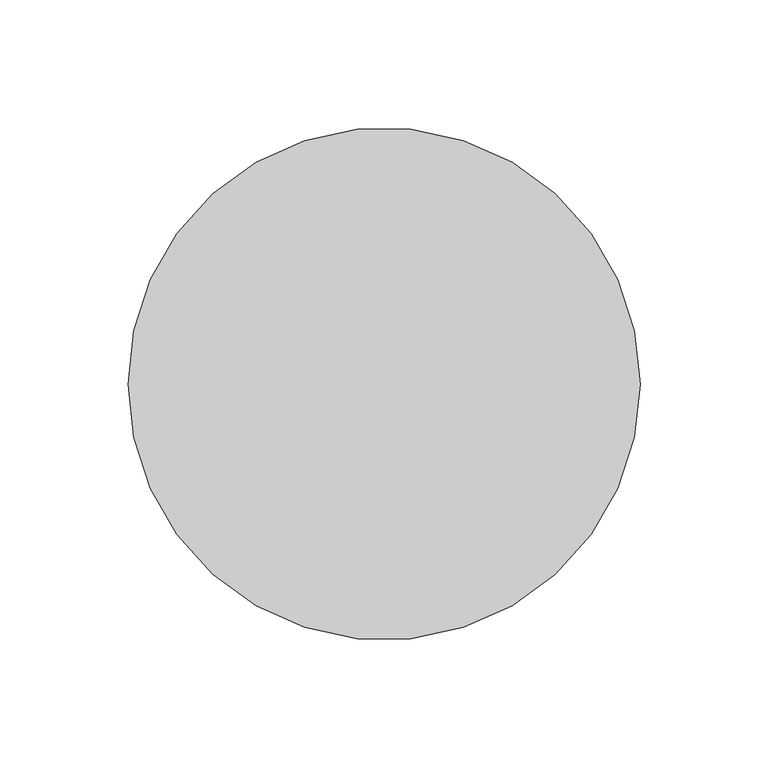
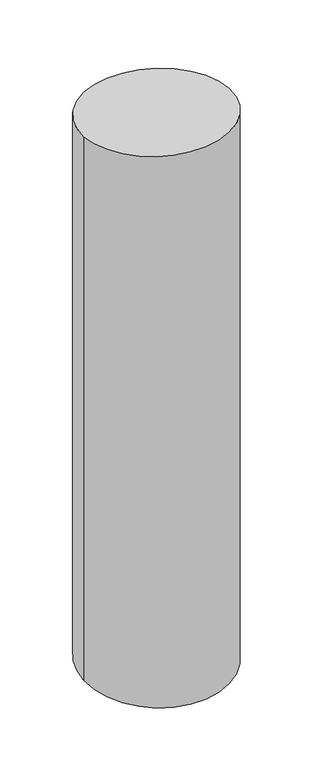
"""IFC4 building model written with IfcOpenShell, lengths in millimetres: member geometry, 矩形竖梃 : 圆瓦."""

from ifc_helpers import new_model, si_unit, frame, origin, origin_with_axes, place, context, project, spatial, ellipse_curve, source, transform, mapped, element, save
from ifc_brep_helpers import plane_surface, cylinder_surface, advanced_brep


def member_29c24a8f(model_context):
    return source(origin(), model_context, "Body", "AdvancedBrep", [
        advanced_brep(
        [(-100.0, 0.0, 0.0), (100.0, 0.0, 0.0), (100.0, 0.0, -790.1124317), (-100.0, 0.0, -790.1124317)],
        [
            (0, 1, ellipse_curve(frame((0.0, 0.0, 0.0), z_axis=(0.0, -0.06767279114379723, -0.9977075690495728), x_axis=(0.0, -0.9977075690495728, 0.06767279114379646)), 100.2297698, 100.0)),
            (1, 2),
            (2, 3, ellipse_curve(frame((0.0, 0.0, -790.1124317), z_axis=(0.0, -0.06558371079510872, 0.9978470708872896), x_axis=(0.0, 0.9978470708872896, 0.06558371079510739)), 100.2157574, 100.0)),
            (3, 0),
            (1, 0, ellipse_curve(frame((0.0, 0.0, 0.0), z_axis=(0.0, -0.06767279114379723, -0.9977075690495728), x_axis=(0.0, -0.9977075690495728, 0.06767279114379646)), 100.2297698, 100.0)),
            (3, 2, ellipse_curve(frame((0.0, 0.0, -790.1124317), z_axis=(0.0, -0.06558371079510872, 0.9978470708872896), x_axis=(0.0, 0.9978470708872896, 0.06558371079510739)), 100.2157574, 100.0)),
        ],
        [
            cylinder_surface(origin_with_axes(), 100.0),
            plane_surface(frame((-304.8, 0.0, 0.0), z_axis=(0.0, 0.06767279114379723, 0.9977075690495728), x_axis=(0.0, 0.9977075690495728, -0.06767279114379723))),
            plane_surface(frame((-304.8, 0.0, -790.1124317), z_axis=(0.0, 0.06558371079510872, -0.9978470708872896), x_axis=(0.0, 0.9978470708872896, 0.06558371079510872))),
        ],
        [
            (0, [[1, 2, 3, 4]]),
            (0, [[5, -4, 6, -2]]),
            (1, [[-1, -5]]),
            (2, [[-6, -3]]),
        ],
    ),
    ])


if __name__ == "__main__":
    model = new_model("IFC4")
    model_context = context("Model", 3, world=origin())
    ifc_project = project(units=[si_unit("LENGTHUNIT", "METRE", prefix="MILLI")], contexts=[model_context])
    site = spatial("IfcSite", under=ifc_project)
    building = spatial("IfcBuilding", under=site)
    placement = place(None, origin())
    member_shape = member_29c24a8f(model_context)
    element("IfcMember", 1, ObjectType="矩形竖梃 : 圆瓦", at=placement, inside=building, context=model_context, shape_type="MappedRepresentation", body=[
        mapped(member_shape, transform((0.0, 0.0, 0.0), x_axis=(1.0, 0.0, 0.0), y_axis=(0.0, 1.0, 0.0), z_axis=(0.0, 0.0, 1.0))),
    ])
    save(model, "model.ifc")
